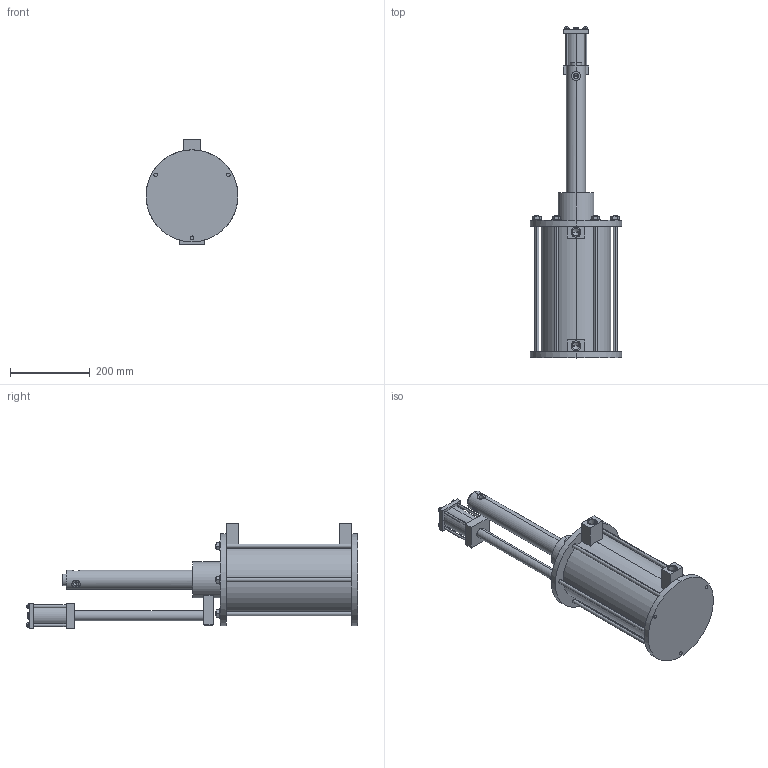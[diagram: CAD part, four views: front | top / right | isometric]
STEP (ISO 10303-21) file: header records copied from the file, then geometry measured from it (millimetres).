
FILE_DESCRIPTION (( 'STEP AP203' ), '1' );
FILE_NAME ('6110-220.STEP', '2016-01-29T10:37:02', ( '' ), ( '' ), 'SwSTEP 2.0', 'SolidWorks 2015', '' );
FILE_SCHEMA (( 'CONFIG_CONTROL_DESIGN' ));
Length unit declared in the file: millimetre
Products named in the file (1): 6110-220
Bounding box: 230 x 830 x 262 mm (x, y, z)
Volume: 3383435.2 mm3; surface area: 765485.5 mm2
Topology: 1 solids, 3 shells, 296 faces, 700 edges, 450 vertices
Faces by surface type: plane 160, cylinder 112, cone 22, torus 2
Entity records: 9159 total; most frequent: CARTESIAN_POINT 2091, DIRECTION 1490, ORIENTED_EDGE 1376, EDGE_CURVE 688, AXIS2_PLACEMENT_3D 539, VERTEX_POINT 450, VECTOR 412, LINE 412
